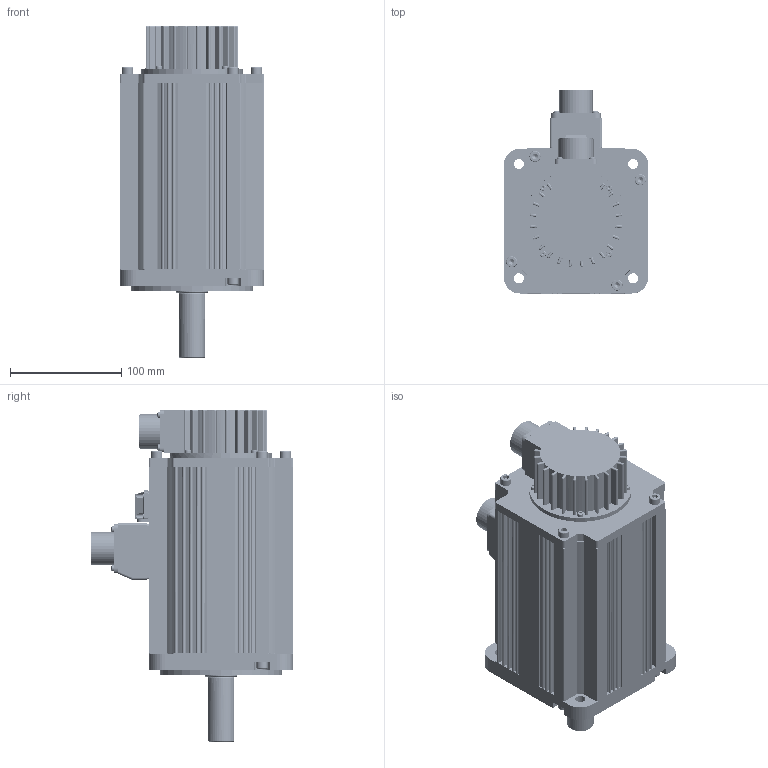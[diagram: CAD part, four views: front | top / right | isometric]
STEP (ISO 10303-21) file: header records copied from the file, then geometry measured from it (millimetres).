
FILE_DESCRIPTION((''),'2;1');
FILE_NAME('PH2-L13A230XXXX1A_ASM','2019-08-22T',('jiangfei6'),(''),'CREO PARAMETRIC BY PTC INC, 2015480','CREO PARAMETRIC BY PTC INC, 2015480','');
FILE_SCHEMA(('CONFIG_CONTROL_DESIGN'));
Products named in the file (20): 80Q0010701_AF0_1; 80D5006701_1; 80D2003101_1; 80D2003201_AF0_1_1; 80D2003201_AF0_1_2; 80D2003201_AF0_1_ASM; 80D2000901_1; 80S6002801_1; 80S5000101_1; 80S6003601_1; 80G6000501_1; 80G3000501_1; 80G3000901_1; MJ01-8038_1; MJ01-8042_1; MJ01-8035_1; MJ01-8033_1; MJ01-8041_1; R130-3KW-SHACHE_ASM_1_ASM; PH2-L13A230XXXX1A_ASM
Assembly tree (38 placements, depth 4):
  PH2-L13A230XXXX1A_ASM
    R130-3KW-SHACHE_ASM_1_ASM
      80Q0010701_AF0_1
      80D5006701_1
      80D2003101_1
      80D2003201_AF0_1_ASM
        80D2003201_AF0_1_1
        80D2003201_AF0_1_2
      80D2000901_1
      80S6002801_1
      80S5000101_1
      80S6003601_1
      80G6000501_1
      80G3000501_1
      80G3000901_1
      MJ01-8038_1  x8
      MJ01-8042_1  x4
      MJ01-8035_1  x4
      MJ01-8033_1  x4
      MJ01-8041_1  x4
Bounding box: 130 x 182.15 x 298.05 mm (x, y, z)
Volume: 787194.3 mm3; surface area: 393239.5 mm2
Topology: 35 solids, 66 shells, 6543 faces, 14900 edges, 8425 vertices
Faces by surface type: cone 2741, cylinder 2552, plane 1100, sphere 108, torus 24, bspline 18
Entity records: 89414 total; most frequent: CARTESIAN_POINT 17728, DIRECTION 15974, ORIENTED_EDGE 14336, EDGE_CURVE 7238, AXIS2_PLACEMENT_3D 6120, VERTEX_POINT 4492, VECTOR 3734, LINE 3734
